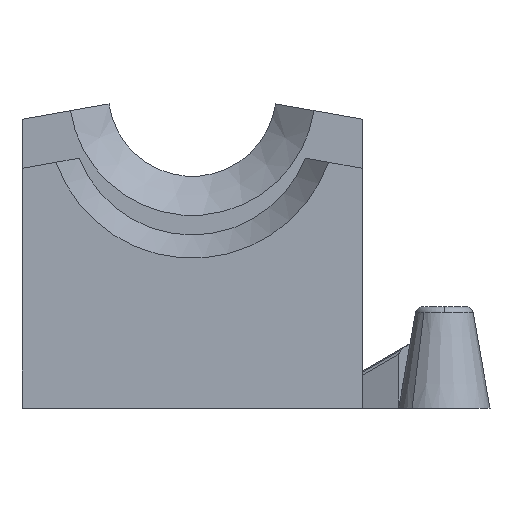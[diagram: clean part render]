
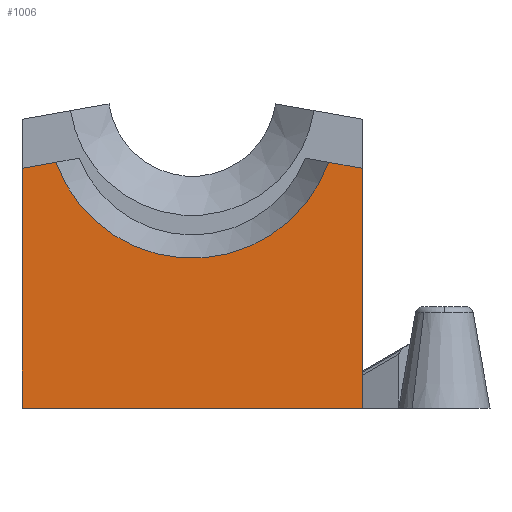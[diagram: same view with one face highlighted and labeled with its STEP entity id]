
A CAD part, left-side view. The second image highlights one B-rep face of the part: STEP entity #1006.
In plain terms, the highlighted planar face has unit normal (-1, 0, 0).
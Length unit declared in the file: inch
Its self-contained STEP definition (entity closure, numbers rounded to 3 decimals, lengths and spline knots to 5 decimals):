
#854=CARTESIAN_POINT('',(11.30195,2.09221,0.3311));
#855=VERTEX_POINT('',#854);
#862=CARTESIAN_POINT('',(11.30195,2.09221,0.0));
#863=VERTEX_POINT('',#862);
#864=CARTESIAN_POINT('',(11.30195,2.09221,0.0));
#865=DIRECTION('',(0.0,0.0,1.0));
#866=VECTOR('',#865,0.3311);
#867=LINE('',#864,#866);
#868=EDGE_CURVE('',#863,#855,#867,.T.);
#920=CARTESIAN_POINT('',(11.30195,2.139,0.33935));
#921=VERTEX_POINT('',#920);
#935=CARTESIAN_POINT('',(11.30195,2.139,0.33935));
#936=DIRECTION('',(0.,-0.985,-0.174));
#937=VECTOR('',#936,0.04751);
#938=LINE('',#935,#937);
#939=EDGE_CURVE('',#855,#921,#938,.F.);
#966=CARTESIAN_POINT('',(11.30195,2.09221,0.0));
#967=DIRECTION('',(-1.0,0.0,0.0));
#968=DIRECTION('',(0.0,0.0,1.0));
#969=AXIS2_PLACEMENT_3D('',#966,#967,#968);
#970=PLANE('',#969);
#971=ORIENTED_EDGE('',*,*,#939,.T.);
#972=CARTESIAN_POINT('',(11.30195,2.51542,0.33935));
#973=VERTEX_POINT('',#972);
#974=CARTESIAN_POINT('',(11.30195,2.32721,0.407));
#975=DIRECTION('',(1.0,0.0,0.0));
#976=DIRECTION('',(0.0,-1.0,0.0));
#977=AXIS2_PLACEMENT_3D('',#974,#975,#976);
#978=CIRCLE('',#977,0.2);
#979=EDGE_CURVE('',#921,#973,#978,.T.);
#980=ORIENTED_EDGE('',*,*,#979,.T.);
#981=CARTESIAN_POINT('',(11.30195,2.56221,0.3311));
#982=VERTEX_POINT('',#981);
#983=CARTESIAN_POINT('',(11.30195,2.56221,0.3311));
#984=DIRECTION('',(0.,-0.985,0.174));
#985=VECTOR('',#984,0.04751);
#986=LINE('',#983,#985);
#987=EDGE_CURVE('',#973,#982,#986,.F.);
#988=ORIENTED_EDGE('',*,*,#987,.T.);
#989=CARTESIAN_POINT('',(11.30195,2.56221,0.0));
#990=VERTEX_POINT('',#989);
#991=CARTESIAN_POINT('',(11.30195,2.56221,0.0));
#992=DIRECTION('',(0.0,0.0,1.0));
#993=VECTOR('',#992,0.3311);
#994=LINE('',#991,#993);
#995=EDGE_CURVE('',#982,#990,#994,.F.);
#996=ORIENTED_EDGE('',*,*,#995,.T.);
#997=CARTESIAN_POINT('',(11.30195,2.09221,0.0));
#998=DIRECTION('',(0.0,1.0,0.0));
#999=VECTOR('',#998,0.47);
#1000=LINE('',#997,#999);
#1001=EDGE_CURVE('',#990,#863,#1000,.F.);
#1002=ORIENTED_EDGE('',*,*,#1001,.T.);
#1003=ORIENTED_EDGE('',*,*,#868,.T.);
#1004=EDGE_LOOP('',(#971,#980,#988,#996,#1002,#1003));
#1005=FACE_OUTER_BOUND('',#1004,.T.);
#1006=ADVANCED_FACE('',(#1005),#970,.T.);
